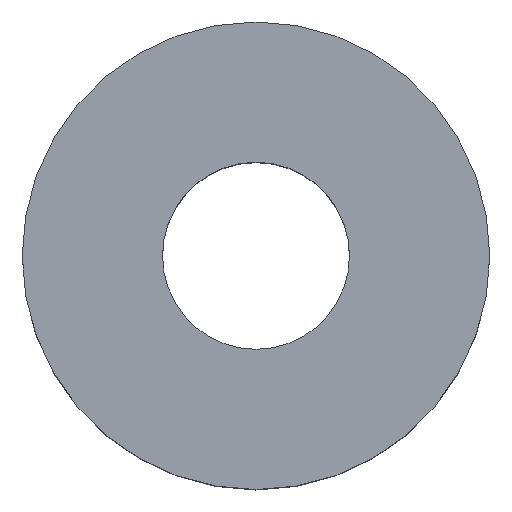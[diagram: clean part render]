
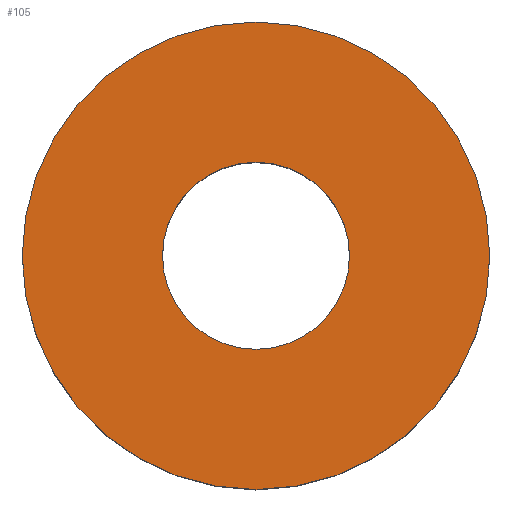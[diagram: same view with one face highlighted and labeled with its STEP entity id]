
A CAD part, top view. The second image highlights one B-rep face of the part: STEP entity #105.
In plain terms, the highlighted planar face has unit normal (0, 0, 1).
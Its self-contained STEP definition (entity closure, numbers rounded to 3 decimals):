
#21 = EDGE_CURVE('',#22,#22,#24,.T.);
#22 = VERTEX_POINT('',#23);
#23 = CARTESIAN_POINT('',(2.5,0.,5.2));
#24 = SURFACE_CURVE('',#25,(#30,#42),.PCURVE_S1.);
#25 = CIRCLE('',#26,2.5);
#26 = AXIS2_PLACEMENT_3D('',#27,#28,#29);
#27 = CARTESIAN_POINT('',(0.,0.,5.2));
#28 = DIRECTION('',(0.,0.,1.));
#29 = DIRECTION('',(1.,0.,-0.));
#30 = PCURVE('',#31,#36);
#31 = CYLINDRICAL_SURFACE('',#32,2.5);
#32 = AXIS2_PLACEMENT_3D('',#33,#34,#35);
#33 = CARTESIAN_POINT('',(0.,0.,2.7));
#34 = DIRECTION('',(0.,0.,1.));
#35 = DIRECTION('',(1.,0.,-0.));
#36 = DEFINITIONAL_REPRESENTATION('',(#37),#41);
#37 = LINE('',#38,#39);
#38 = CARTESIAN_POINT('',(0.,2.5));
#39 = VECTOR('',#40,1.);
#40 = DIRECTION('',(1.,0.));
#41 = ( GEOMETRIC_REPRESENTATION_CONTEXT(2) 
PARAMETRIC_REPRESENTATION_CONTEXT() REPRESENTATION_CONTEXT('2D SPACE',''
  ) );
#42 = PCURVE('',#43,#48);
#43 = PLANE('',#44);
#44 = AXIS2_PLACEMENT_3D('',#45,#46,#47);
#45 = CARTESIAN_POINT('',(0.,0.,5.2));
#46 = DIRECTION('',(0.,0.,1.));
#47 = DIRECTION('',(1.,0.,-0.));
#48 = DEFINITIONAL_REPRESENTATION('',(#49),#53);
#49 = CIRCLE('',#50,2.5);
#50 = AXIS2_PLACEMENT_2D('',#51,#52);
#51 = CARTESIAN_POINT('',(0.,0.));
#52 = DIRECTION('',(1.,0.));
#53 = ( GEOMETRIC_REPRESENTATION_CONTEXT(2) 
PARAMETRIC_REPRESENTATION_CONTEXT() REPRESENTATION_CONTEXT('2D SPACE',''
  ) );
#105 = ADVANCED_FACE('',(#106,#109),#43,.T.);
#106 = FACE_BOUND('',#107,.T.);
#107 = EDGE_LOOP('',(#108));
#108 = ORIENTED_EDGE('',*,*,#21,.T.);
#109 = FACE_BOUND('',#110,.T.);
#110 = EDGE_LOOP('',(#111));
#111 = ORIENTED_EDGE('',*,*,#112,.F.);
#112 = EDGE_CURVE('',#113,#113,#115,.T.);
#113 = VERTEX_POINT('',#114);
#114 = CARTESIAN_POINT('',(1.,0.,5.2));
#115 = SURFACE_CURVE('',#116,(#121,#128),.PCURVE_S1.);
#116 = CIRCLE('',#117,1.);
#117 = AXIS2_PLACEMENT_3D('',#118,#119,#120);
#118 = CARTESIAN_POINT('',(0.,0.,5.2));
#119 = DIRECTION('',(0.,0.,1.));
#120 = DIRECTION('',(1.,0.,-0.));
#121 = PCURVE('',#43,#122);
#122 = DEFINITIONAL_REPRESENTATION('',(#123),#127);
#123 = CIRCLE('',#124,1.);
#124 = AXIS2_PLACEMENT_2D('',#125,#126);
#125 = CARTESIAN_POINT('',(0.,0.));
#126 = DIRECTION('',(1.,0.));
#127 = ( GEOMETRIC_REPRESENTATION_CONTEXT(2) 
PARAMETRIC_REPRESENTATION_CONTEXT() REPRESENTATION_CONTEXT('2D SPACE',''
  ) );
#128 = PCURVE('',#129,#134);
#129 = CYLINDRICAL_SURFACE('',#130,1.);
#130 = AXIS2_PLACEMENT_3D('',#131,#132,#133);
#131 = CARTESIAN_POINT('',(0.,0.,2.69));
#132 = DIRECTION('',(0.,0.,1.));
#133 = DIRECTION('',(1.,0.,-0.));
#134 = DEFINITIONAL_REPRESENTATION('',(#135),#139);
#135 = LINE('',#136,#137);
#136 = CARTESIAN_POINT('',(0.,2.51));
#137 = VECTOR('',#138,1.);
#138 = DIRECTION('',(1.,0.));
#139 = ( GEOMETRIC_REPRESENTATION_CONTEXT(2) 
PARAMETRIC_REPRESENTATION_CONTEXT() REPRESENTATION_CONTEXT('2D SPACE',''
  ) );
